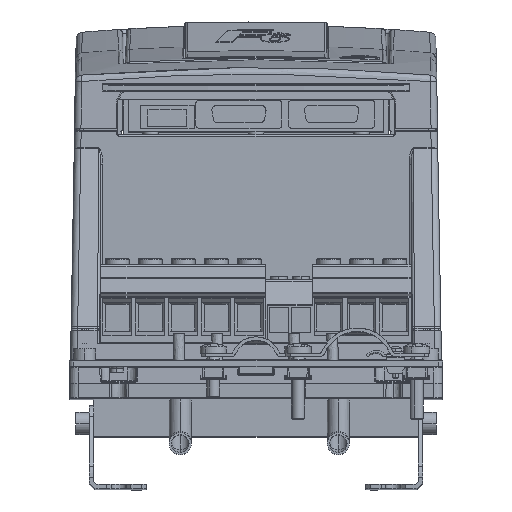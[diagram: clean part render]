
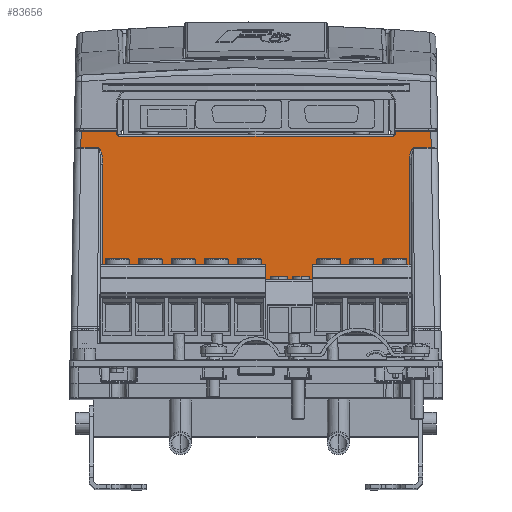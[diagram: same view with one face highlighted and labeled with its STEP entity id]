
A CAD part, top view. The second image highlights one B-rep face of the part: STEP entity #83656.
In plain terms, the highlighted planar face has unit normal (0, 0, 1).
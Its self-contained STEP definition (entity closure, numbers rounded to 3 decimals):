
#881 = CARTESIAN_POINT ( 'NONE',  ( -63.5, 47.6, 124. ) ) ;
#2454 = LINE ( 'NONE', #48508, #99357 ) ;
#3299 = VECTOR ( 'NONE', #78285, 1000. ) ;
#3617 = DIRECTION ( 'NONE',  ( 1., 0., 0. ) ) ;
#4153 = ORIENTED_EDGE ( 'NONE', *, *, #86627, .T. ) ;
#4840 = CARTESIAN_POINT ( 'NONE',  ( 69.763, 33.786, 124. ) ) ;
#8577 = EDGE_CURVE ( 'NONE', #35964, #80809, #51378, .T. ) ;
#10303 = VERTEX_POINT ( 'NONE', #56106 ) ;
#11180 = CARTESIAN_POINT ( 'NONE',  ( -69.763, 38.164, 124. ) ) ;
#11298 = EDGE_CURVE ( 'NONE', #22197, #79717, #25669, .T. ) ;
#12147 = EDGE_CURVE ( 'NONE', #20917, #109390, #20403, .T. ) ;
#12425 = CARTESIAN_POINT ( 'NONE',  ( 79.767, 41.234, 124. ) ) ;
#13466 = CARTESIAN_POINT ( 'NONE',  ( 62.5, 46.6, 124. ) ) ;
#14390 = DIRECTION ( 'NONE',  ( 0., 0., 1. ) ) ;
#15303 = EDGE_CURVE ( 'NONE', #15964, #35964, #65592, .T. ) ;
#15747 = DIRECTION ( 'NONE',  ( -1., 0., 0. ) ) ;
#15964 = VERTEX_POINT ( 'NONE', #17888 ) ;
#16252 = VERTEX_POINT ( 'NONE', #881 ) ;
#16433 = VECTOR ( 'NONE', #39560, 1000. ) ;
#16456 = ORIENTED_EDGE ( 'NONE', *, *, #18063, .T. ) ;
#17670 = CARTESIAN_POINT ( 'NONE',  ( 69.763, 89.215, 124. ) ) ;
#17888 = CARTESIAN_POINT ( 'NONE',  ( 71.729, 41.234, 124. ) ) ;
#18063 = EDGE_CURVE ( 'NONE', #25258, #18765, #78008, .T. ) ;
#18765 = VERTEX_POINT ( 'NONE', #111023 ) ;
#20403 =( BOUNDED_CURVE ( )  B_SPLINE_CURVE ( 3, ( #90629, #37439, #11180, #46751 ),
 .UNSPECIFIED., .F., .T. ) 
 B_SPLINE_CURVE_WITH_KNOTS ( ( 4, 4 ),
 ( 6.282, 7.836 ),
 .UNSPECIFIED. ) 
 CURVE ( )  GEOMETRIC_REPRESENTATION_ITEM ( )  RATIONAL_B_SPLINE_CURVE ( ( 1., 0.809, 0.809, 1. ) ) 
 REPRESENTATION_ITEM ( '' )  );
#20917 = VERTEX_POINT ( 'NONE', #45708 ) ;
#22197 = VERTEX_POINT ( 'NONE', #13466 ) ;
#22471 = CARTESIAN_POINT ( 'NONE',  ( 63.5, 48.6, 124. ) ) ;
#22694 = CARTESIAN_POINT ( 'NONE',  ( -63.5, 89.215, 124. ) ) ;
#22879 = CARTESIAN_POINT ( 'NONE',  ( 71.729, 41.234, 124. ) ) ;
#22964 = CARTESIAN_POINT ( 'NONE',  ( -63.5, 48.6, 124. ) ) ;
#23499 = VERTEX_POINT ( 'NONE', #22964 ) ;
#23870 = CARTESIAN_POINT ( 'NONE',  ( 63.5, 47.6, 124. ) ) ;
#25080 = VERTEX_POINT ( 'NONE', #23870 ) ;
#25258 = VERTEX_POINT ( 'NONE', #75207 ) ;
#25669 = LINE ( 'NONE', #70063, #101412 ) ;
#26786 = VECTOR ( 'NONE', #90102, 1000. ) ;
#27971 = DIRECTION ( 'NONE',  ( -1., 0., 0. ) ) ;
#29044 = EDGE_LOOP ( 'NONE', ( #60143, #39358, #4153, #82007, #103650, #88979, #53474, #64137, #74628, #60170, #103123, #36159, #16456, #75291, #101292, #94705 ) ) ;
#31845 = DIRECTION ( 'NONE',  ( -0.018, -1., 0. ) ) ;
#33173 = DIRECTION ( 'NONE',  ( 0., 1., 0. ) ) ;
#33261 = LINE ( 'NONE', #53113, #72949 ) ;
#34071 = EDGE_CURVE ( 'NONE', #18765, #20917, #2454, .T. ) ;
#35964 = VERTEX_POINT ( 'NONE', #113631 ) ;
#36159 = ORIENTED_EDGE ( 'NONE', *, *, #93320, .T. ) ;
#36679 = CARTESIAN_POINT ( 'NONE',  ( -84.5, 48.6, 124. ) ) ;
#37439 = CARTESIAN_POINT ( 'NONE',  ( -70.573, 41.234, 124. ) ) ;
#39358 = ORIENTED_EDGE ( 'NONE', *, *, #84391, .T. ) ;
#39560 = DIRECTION ( 'NONE',  ( 0., -1., 0. ) ) ;
#41070 = CIRCLE ( 'NONE', #61618, 1. ) ;
#42005 = EDGE_CURVE ( 'NONE', #109390, #78860, #101672, .T. ) ;
#45708 = CARTESIAN_POINT ( 'NONE',  ( -71.729, 41.234, 124. ) ) ;
#46751 = CARTESIAN_POINT ( 'NONE',  ( -69.763, 33.786, 124. ) ) ;
#47882 = CARTESIAN_POINT ( 'NONE',  ( -69.763, 89.215, 124. ) ) ;
#48508 = CARTESIAN_POINT ( 'NONE',  ( -71.729, 41.234, 124. ) ) ;
#48940 = CARTESIAN_POINT ( 'NONE',  ( -62.5, 47.6, 124. ) ) ;
#49155 = CARTESIAN_POINT ( 'NONE',  ( 69.763, 38.164, 124. ) ) ;
#51378 = LINE ( 'NONE', #72848, #3299 ) ;
#51896 = DIRECTION ( 'NONE',  ( -1., 0., 0. ) ) ;
#52481 = LINE ( 'NONE', #36679, #79314 ) ;
#53113 = CARTESIAN_POINT ( 'NONE',  ( -84.5, 48.6, 124. ) ) ;
#53474 = ORIENTED_EDGE ( 'NONE', *, *, #68931, .T. ) ;
#54266 =( BOUNDED_CURVE ( )  B_SPLINE_CURVE ( 3, ( #4840, #49155, #111660, #22879 ),
 .UNSPECIFIED., .F., .T. ) 
 B_SPLINE_CURVE_WITH_KNOTS ( ( 4, 4 ),
 ( 4.73, 6.284 ),
 .UNSPECIFIED. ) 
 CURVE ( )  GEOMETRIC_REPRESENTATION_ITEM ( )  RATIONAL_B_SPLINE_CURVE ( ( 1., 0.809, 0.809, 1. ) ) 
 REPRESENTATION_ITEM ( '' )  );
#55683 = VECTOR ( 'NONE', #31845, 1000. ) ;
#56106 = CARTESIAN_POINT ( 'NONE',  ( 69.763, -47.4, 124. ) ) ;
#56829 = EDGE_CURVE ( 'NONE', #16252, #79717, #98194, .T. ) ;
#57042 = DIRECTION ( 'NONE',  ( -1., 0., 0. ) ) ;
#57315 = VECTOR ( 'NONE', #100531, 1000. ) ;
#60143 = ORIENTED_EDGE ( 'NONE', *, *, #70413, .F. ) ;
#60170 = ORIENTED_EDGE ( 'NONE', *, *, #56829, .F. ) ;
#61618 = AXIS2_PLACEMENT_3D ( 'NONE', #94399, #14390, #113645 ) ;
#64137 = ORIENTED_EDGE ( 'NONE', *, *, #99706, .F. ) ;
#65134 = VECTOR ( 'NONE', #27971, 1000. ) ;
#65592 = LINE ( 'NONE', #12425, #115352 ) ;
#67527 = DIRECTION ( 'NONE',  ( 0., 0., -1. ) ) ;
#68931 = EDGE_CURVE ( 'NONE', #89099, #25080, #103208, .T. ) ;
#70063 = CARTESIAN_POINT ( 'NONE',  ( 49.191, 46.6, 124. ) ) ;
#70413 = EDGE_CURVE ( 'NONE', #10303, #78860, #72377, .T. ) ;
#71225 = CARTESIAN_POINT ( 'NONE',  ( -84.5, -47.4, 124. ) ) ;
#72377 = LINE ( 'NONE', #71225, #65134 ) ;
#72848 = CARTESIAN_POINT ( 'NONE',  ( 78.857, 92.127, 124. ) ) ;
#72949 = VECTOR ( 'NONE', #15747, 1000. ) ;
#73499 = CARTESIAN_POINT ( 'NONE',  ( -62.5, 46.6, 124. ) ) ;
#74628 = ORIENTED_EDGE ( 'NONE', *, *, #11298, .T. ) ;
#75207 = CARTESIAN_POINT ( 'NONE',  ( -79.633, 48.6, 124. ) ) ;
#75291 = ORIENTED_EDGE ( 'NONE', *, *, #34071, .T. ) ;
#75307 = LINE ( 'NONE', #22694, #90318 ) ;
#75742 = FACE_OUTER_BOUND ( 'NONE', #29044, .T. ) ;
#75845 = AXIS2_PLACEMENT_3D ( 'NONE', #48940, #82867, #109732 ) ;
#76563 = AXIS2_PLACEMENT_3D ( 'NONE', #94389, #67527, #57042 ) ;
#78008 = LINE ( 'NONE', #113614, #55683 ) ;
#78268 = DIRECTION ( 'NONE',  ( -1., 0., 0. ) ) ;
#78285 = DIRECTION ( 'NONE',  ( -0.018, 1., 0. ) ) ;
#78860 = VERTEX_POINT ( 'NONE', #97741 ) ;
#79314 = VECTOR ( 'NONE', #51896, 1000. ) ;
#79717 = VERTEX_POINT ( 'NONE', #73499 ) ;
#80809 = VERTEX_POINT ( 'NONE', #92338 ) ;
#80957 = EDGE_CURVE ( 'NONE', #80809, #89099, #33261, .T. ) ;
#82007 = ORIENTED_EDGE ( 'NONE', *, *, #15303, .T. ) ;
#82867 = DIRECTION ( 'NONE',  ( 0., 0., 1. ) ) ;
#83656 = ADVANCED_FACE ( 'NONE', ( #75742 ), #103729, .F. ) ;
#83984 = CARTESIAN_POINT ( 'NONE',  ( 63.5, 89.215, 124. ) ) ;
#84391 = EDGE_CURVE ( 'NONE', #10303, #89204, #89535, .T. ) ;
#84421 = CARTESIAN_POINT ( 'NONE',  ( 69.763, 33.786, 124. ) ) ;
#86627 = EDGE_CURVE ( 'NONE', #89204, #15964, #54266, .T. ) ;
#88979 = ORIENTED_EDGE ( 'NONE', *, *, #80957, .T. ) ;
#89099 = VERTEX_POINT ( 'NONE', #22471 ) ;
#89204 = VERTEX_POINT ( 'NONE', #84421 ) ;
#89535 = LINE ( 'NONE', #17670, #26786 ) ;
#90102 = DIRECTION ( 'NONE',  ( 0., 1., 0. ) ) ;
#90318 = VECTOR ( 'NONE', #33173, 1000. ) ;
#90629 = CARTESIAN_POINT ( 'NONE',  ( -71.729, 41.234, 124. ) ) ;
#92296 = EDGE_CURVE ( 'NONE', #16252, #23499, #75307, .T. ) ;
#92338 = CARTESIAN_POINT ( 'NONE',  ( 79.633, 48.6, 124. ) ) ;
#92459 = DIRECTION ( 'NONE',  ( 1., 0., 0. ) ) ;
#93320 = EDGE_CURVE ( 'NONE', #23499, #25258, #52481, .T. ) ;
#94389 = CARTESIAN_POINT ( 'NONE',  ( -84.5, 89.215, 124. ) ) ;
#94399 = CARTESIAN_POINT ( 'NONE',  ( 62.5, 47.6, 124. ) ) ;
#94705 = ORIENTED_EDGE ( 'NONE', *, *, #42005, .T. ) ;
#97741 = CARTESIAN_POINT ( 'NONE',  ( -69.763, -47.4, 124. ) ) ;
#98194 = CIRCLE ( 'NONE', #75845, 1. ) ;
#99357 = VECTOR ( 'NONE', #3617, 1000. ) ;
#99706 = EDGE_CURVE ( 'NONE', #22197, #25080, #41070, .T. ) ;
#100531 = DIRECTION ( 'NONE',  ( 0., -1., 0. ) ) ;
#101292 = ORIENTED_EDGE ( 'NONE', *, *, #12147, .T. ) ;
#101412 = VECTOR ( 'NONE', #78268, 1000. ) ;
#101672 = LINE ( 'NONE', #47882, #57315 ) ;
#101790 = CARTESIAN_POINT ( 'NONE',  ( -69.763, 33.786, 124. ) ) ;
#103123 = ORIENTED_EDGE ( 'NONE', *, *, #92296, .T. ) ;
#103208 = LINE ( 'NONE', #83984, #16433 ) ;
#103650 = ORIENTED_EDGE ( 'NONE', *, *, #8577, .T. ) ;
#103729 = PLANE ( 'NONE',  #76563 ) ;
#109390 = VERTEX_POINT ( 'NONE', #101790 ) ;
#109732 = DIRECTION ( 'NONE',  ( -1., 0., 0. ) ) ;
#111023 = CARTESIAN_POINT ( 'NONE',  ( -79.765, 41.234, 124. ) ) ;
#111660 = CARTESIAN_POINT ( 'NONE',  ( 70.573, 41.234, 124. ) ) ;
#113614 = CARTESIAN_POINT ( 'NONE',  ( -78.911, 89.115, 124. ) ) ;
#113631 = CARTESIAN_POINT ( 'NONE',  ( 79.765, 41.234, 124. ) ) ;
#113645 = DIRECTION ( 'NONE',  ( -1., 0., 0. ) ) ;
#115352 = VECTOR ( 'NONE', #92459, 1000. ) ;
